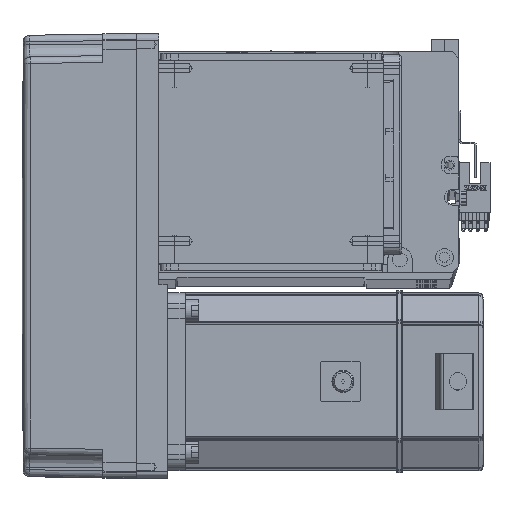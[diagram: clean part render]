
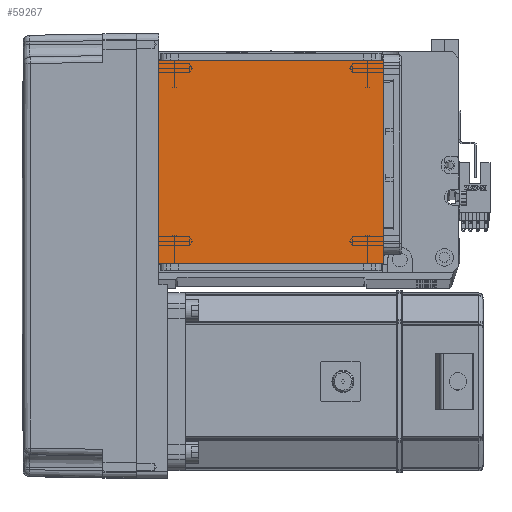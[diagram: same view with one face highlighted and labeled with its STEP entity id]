
A CAD part, top view. The second image highlights one B-rep face of the part: STEP entity #59267.
In plain terms, the highlighted planar face has unit normal (0, 0, 1).
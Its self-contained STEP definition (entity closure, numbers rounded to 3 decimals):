
#556 = CARTESIAN_POINT ( 'NONE',  ( 0., 0., 115. ) ) ;
#4754 = LINE ( 'NONE', #55118, #57798 ) ;
#10702 = VERTEX_POINT ( 'NONE', #39536 ) ;
#17388 = CARTESIAN_POINT ( 'NONE',  ( -70.004, 111.5, 115. ) ) ;
#18379 = VECTOR ( 'NONE', #22249, 1000. ) ;
#22249 = DIRECTION ( 'NONE',  ( 1., 0., 0. ) ) ;
#22858 = VERTEX_POINT ( 'NONE', #44006 ) ;
#23436 = ORIENTED_EDGE ( 'NONE', *, *, #35271, .T. ) ;
#25728 = ORIENTED_EDGE ( 'NONE', *, *, #59946, .T. ) ;
#26012 = ORIENTED_EDGE ( 'NONE', *, *, #60280, .F. ) ;
#29215 = CARTESIAN_POINT ( 'NONE',  ( -70.004, 20., 115. ) ) ;
#29362 = DIRECTION ( 'NONE',  ( 1., 0., 0. ) ) ;
#33208 = ORIENTED_EDGE ( 'NONE', *, *, #60092, .F. ) ;
#34728 = CARTESIAN_POINT ( 'NONE',  ( 50.5, 20., 115. ) ) ;
#35271 = EDGE_CURVE ( 'NONE', #10702, #22858, #53605, .T. ) ;
#37436 = FACE_OUTER_BOUND ( 'NONE', #39119, .T. ) ;
#39119 = EDGE_LOOP ( 'NONE', ( #33208, #23436, #26012, #25728 ) ) ;
#39536 = CARTESIAN_POINT ( 'NONE',  ( -50.5, 111.5, 115. ) ) ;
#39951 = VECTOR ( 'NONE', #57499, 1000. ) ;
#42412 = VERTEX_POINT ( 'NONE', #34728 ) ;
#43752 = DIRECTION ( 'NONE',  ( 0., 0., 1. ) ) ;
#43830 = LINE ( 'NONE', #29215, #49763 ) ;
#43953 = PLANE ( 'NONE',  #61944 ) ;
#44006 = CARTESIAN_POINT ( 'NONE',  ( -50.5, 20., 115. ) ) ;
#44139 = LINE ( 'NONE', #17388, #18379 ) ;
#49763 = VECTOR ( 'NONE', #57839, 1000. ) ;
#52244 = VERTEX_POINT ( 'NONE', #56866 ) ;
#53605 = LINE ( 'NONE', #62732, #39951 ) ;
#55118 = CARTESIAN_POINT ( 'NONE',  ( 50.5, 122., 115. ) ) ;
#56866 = CARTESIAN_POINT ( 'NONE',  ( 50.5, 111.5, 115. ) ) ;
#57499 = DIRECTION ( 'NONE',  ( 0., -1., 0. ) ) ;
#57798 = VECTOR ( 'NONE', #59967, 1000. ) ;
#57839 = DIRECTION ( 'NONE',  ( -1., 0., 0. ) ) ;
#59267 = ADVANCED_FACE ( 'NONE', ( #37436 ), #43953, .T. ) ;
#59946 = EDGE_CURVE ( 'NONE', #42412, #52244, #4754, .T. ) ;
#59967 = DIRECTION ( 'NONE',  ( 0., 1., 0. ) ) ;
#60092 = EDGE_CURVE ( 'NONE', #10702, #52244, #44139, .T. ) ;
#60280 = EDGE_CURVE ( 'NONE', #42412, #22858, #43830, .T. ) ;
#61944 = AXIS2_PLACEMENT_3D ( 'NONE', #556, #43752, #29362 ) ;
#62732 = CARTESIAN_POINT ( 'NONE',  ( -50.5, 122., 115. ) ) ;
